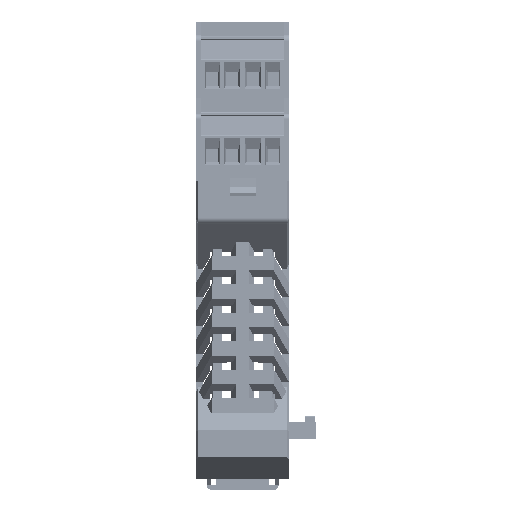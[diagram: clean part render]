
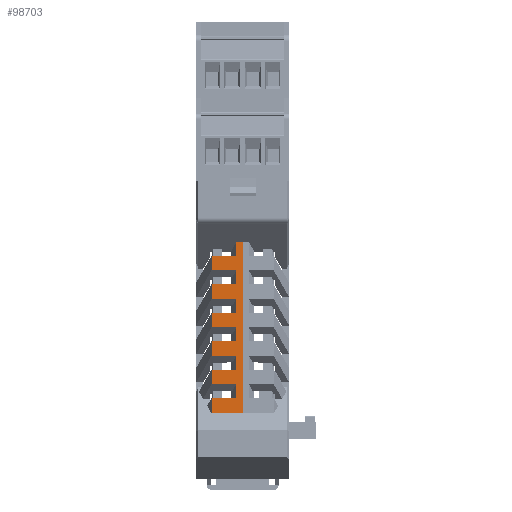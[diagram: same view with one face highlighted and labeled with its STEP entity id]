
A CAD part, front view. The second image highlights one B-rep face of the part: STEP entity #98703.
In plain terms, the highlighted planar face has unit normal (0, -1, 0) as drawn and (1, 0, 0) by its records, which use the part's own axes.
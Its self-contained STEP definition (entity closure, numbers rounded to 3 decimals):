
#98703=ADVANCED_FACE('',(#208674),#208676,.T.);
#208674=FACE_BOUND('',#208675,.T.);
#208675=EDGE_LOOP('',(#297137,#297138,#297139,#297140,#297141,#297142,#297143,#297144,
#297145,#297146,#297147,#297148,#297149,#297150,#297151,#297152,#297153,#297154,
#297155,#297156,#297157,#297158,#297159,#297160,#297161,#297162));
#208676=PLANE('',#208677);
#208677=AXIS2_PLACEMENT_3D('',#208678,#208679,#208680);
#208678=CARTESIAN_POINT('',(42.55,76.5,0.));
#208679=DIRECTION('',(1.,0.,0.));
#208680=DIRECTION('',(0.,0.,-1.));
#297137=ORIENTED_EDGE('',*,*,#349220,.F.);
#297138=ORIENTED_EDGE('',*,*,#349159,.F.);
#297139=ORIENTED_EDGE('',*,*,#349221,.F.);
#297140=ORIENTED_EDGE('',*,*,#349222,.T.);
#297141=ORIENTED_EDGE('',*,*,#348723,.T.);
#297142=ORIENTED_EDGE('',*,*,#349223,.F.);
#297143=ORIENTED_EDGE('',*,*,#349089,.F.);
#297144=ORIENTED_EDGE('',*,*,#349154,.F.);
#297145=ORIENTED_EDGE('',*,*,#348884,.F.);
#297146=ORIENTED_EDGE('',*,*,#349200,.T.);
#297147=ORIENTED_EDGE('',*,*,#349178,.F.);
#297148=ORIENTED_EDGE('',*,*,#349151,.F.);
#297149=ORIENTED_EDGE('',*,*,#349206,.F.);
#297150=ORIENTED_EDGE('',*,*,#349224,.T.);
#297151=ORIENTED_EDGE('',*,*,#349207,.T.);
#297152=ORIENTED_EDGE('',*,*,#349165,.F.);
#297153=ORIENTED_EDGE('',*,*,#349219,.T.);
#297154=ORIENTED_EDGE('',*,*,#349225,.T.);
#297155=ORIENTED_EDGE('',*,*,#349226,.T.);
#297156=ORIENTED_EDGE('',*,*,#349162,.F.);
#297157=ORIENTED_EDGE('',*,*,#349141,.T.);
#297158=ORIENTED_EDGE('',*,*,#349227,.F.);
#297159=ORIENTED_EDGE('',*,*,#349121,.T.);
#297160=ORIENTED_EDGE('',*,*,#349161,.F.);
#297161=ORIENTED_EDGE('',*,*,#349134,.T.);
#297162=ORIENTED_EDGE('',*,*,#349228,.T.);
#348723=EDGE_CURVE('',#410121,#410119,#410122,.T.);
#348884=EDGE_CURVE('',#410395,#410397,#410398,.T.);
#349089=EDGE_CURVE('',#410742,#410744,#410745,.T.);
#349121=EDGE_CURVE('',#410786,#410792,#410794,.T.);
#349134=EDGE_CURVE('',#410814,#410812,#410815,.T.);
#349141=EDGE_CURVE('',#410818,#410822,#410824,.T.);
#349151=EDGE_CURVE('',#410839,#410841,#410842,.T.);
#349154=EDGE_CURVE('',#410397,#410742,#410846,.T.);
#349159=EDGE_CURVE('',#410853,#410855,#410856,.T.);
#349161=EDGE_CURVE('',#410814,#410792,#410858,.T.);
#349162=EDGE_CURVE('',#410818,#410859,#410860,.T.);
#349165=EDGE_CURVE('',#410862,#410864,#410865,.T.);
#349178=EDGE_CURVE('',#410841,#410884,#410885,.T.);
#349200=EDGE_CURVE('',#410395,#410884,#410920,.T.);
#349206=EDGE_CURVE('',#410927,#410839,#410929,.T.);
#349207=EDGE_CURVE('',#410930,#410864,#410931,.T.);
#349219=EDGE_CURVE('',#410862,#410945,#410947,.T.);
#349220=EDGE_CURVE('',#410855,#410948,#410949,.T.);
#349221=EDGE_CURVE('',#410950,#410853,#410951,.T.);
#349222=EDGE_CURVE('',#410950,#410121,#410952,.T.);
#349223=EDGE_CURVE('',#410744,#410119,#410953,.T.);
#349224=EDGE_CURVE('',#410927,#410930,#410954,.T.);
#349225=EDGE_CURVE('',#410945,#410955,#410956,.T.);
#349226=EDGE_CURVE('',#410955,#410859,#410957,.T.);
#349227=EDGE_CURVE('',#410786,#410822,#410958,.T.);
#349228=EDGE_CURVE('',#410812,#410948,#410959,.T.);
#410119=VERTEX_POINT('',#551353);
#410121=VERTEX_POINT('',#551357);
#410122=LINE('',#551358,#551359);
#410395=VERTEX_POINT('',#551960);
#410397=VERTEX_POINT('',#551964);
#410398=LINE('',#551965,#551966);
#410742=VERTEX_POINT('',#552735);
#410744=VERTEX_POINT('',#552739);
#410745=LINE('',#552740,#552741);
#410786=VERTEX_POINT('',#552835);
#410792=VERTEX_POINT('',#552849);
#410794=LINE('',#552853,#552854);
#410812=VERTEX_POINT('',#552895);
#410814=VERTEX_POINT('',#552899);
#410815=LINE('',#552900,#552901);
#410818=VERTEX_POINT('',#552909);
#410822=VERTEX_POINT('',#552919);
#410824=LINE('',#552923,#552924);
#410839=VERTEX_POINT('',#552956);
#410841=VERTEX_POINT('',#552960);
#410842=LINE('',#552961,#552962);
#410846=LINE('',#552971,#552972);
#410853=VERTEX_POINT('',#552986);
#410855=VERTEX_POINT('',#552990);
#410856=LINE('',#552991,#552992);
#410858=LINE('',#552997,#552998);
#410859=VERTEX_POINT('',#553000);
#410860=LINE('',#553001,#553002);
#410862=VERTEX_POINT('',#553007);
#410864=VERTEX_POINT('',#553011);
#410865=LINE('',#553012,#553013);
#410884=VERTEX_POINT('',#553057);
#410885=LINE('',#553058,#553059);
#410920=LINE('',#553137,#553138);
#410927=VERTEX_POINT('',#553154);
#410929=LINE('',#553158,#553159);
#410930=VERTEX_POINT('',#553161);
#410931=LINE('',#553162,#553163);
#410945=VERTEX_POINT('',#553198);
#410947=LINE('',#553202,#553203);
#410948=VERTEX_POINT('',#553205);
#410949=LINE('',#553206,#553207);
#410950=VERTEX_POINT('',#553209);
#410951=LINE('',#553210,#553211);
#410952=LINE('',#553213,#553214);
#410953=LINE('',#553216,#553217);
#410954=LINE('',#553219,#553220);
#410955=VERTEX_POINT('',#553222);
#410956=LINE('',#553223,#553224);
#410957=LINE('',#553226,#553227);
#410958=LINE('',#553229,#553230);
#410959=LINE('',#553232,#553233);
#551353=CARTESIAN_POINT('',(42.55,20.,0.));
#551357=CARTESIAN_POINT('',(42.55,20.,7.547));
#551358=CARTESIAN_POINT('',(42.55,20.,7.547));
#551359=VECTOR('',#551360,1.);
#551360=DIRECTION('',(0.,0.,-1.));
#551960=CARTESIAN_POINT('',(42.55,58.2,7.547));
#551964=CARTESIAN_POINT('',(42.55,58.2,1.5));
#551965=CARTESIAN_POINT('',(42.55,58.2,7.547));
#551966=VECTOR('',#551967,1.);
#551967=DIRECTION('',(0.,0.,-1.));
#552735=CARTESIAN_POINT('',(42.55,61.6,1.5));
#552739=CARTESIAN_POINT('',(42.55,61.6,0.));
#552740=CARTESIAN_POINT('',(42.55,61.6,1.5));
#552741=VECTOR('',#552742,1.);
#552742=DIRECTION('',(0.,0.,-1.));
#552835=CARTESIAN_POINT('',(42.55,34.,7.547));
#552849=CARTESIAN_POINT('',(42.55,34.,1.5));
#552853=CARTESIAN_POINT('',(42.55,34.,7.547));
#552854=VECTOR('',#552855,1.);
#552855=DIRECTION('',(0.,0.,-1.));
#552895=CARTESIAN_POINT('',(42.55,30.6,7.547));
#552899=CARTESIAN_POINT('',(42.55,30.6,1.5));
#552900=CARTESIAN_POINT('',(42.55,30.6,1.5));
#552901=VECTOR('',#552902,1.);
#552902=DIRECTION('',(0.,0.,1.));
#552909=CARTESIAN_POINT('',(42.55,37.5,1.5));
#552919=CARTESIAN_POINT('',(42.55,37.5,7.547));
#552923=CARTESIAN_POINT('',(42.55,37.5,1.5));
#552924=VECTOR('',#552925,1.);
#552925=DIRECTION('',(0.,0.,1.));
#552956=CARTESIAN_POINT('',(42.55,51.3,1.5));
#552960=CARTESIAN_POINT('',(42.55,54.7,1.5));
#552961=CARTESIAN_POINT('',(42.55,51.3,1.5));
#552962=VECTOR('',#552963,1.);
#552963=DIRECTION('',(0.,1.,0.));
#552971=CARTESIAN_POINT('',(42.55,58.2,1.5));
#552972=VECTOR('',#552973,1.);
#552973=DIRECTION('',(0.,1.,0.));
#552986=CARTESIAN_POINT('',(42.55,23.7,1.5));
#552990=CARTESIAN_POINT('',(42.55,27.1,1.5));
#552991=CARTESIAN_POINT('',(42.55,23.7,1.5));
#552992=VECTOR('',#552993,1.);
#552993=DIRECTION('',(0.,1.,0.));
#552997=CARTESIAN_POINT('',(42.55,30.6,1.5));
#552998=VECTOR('',#552999,1.);
#552999=DIRECTION('',(0.,1.,0.));
#553000=CARTESIAN_POINT('',(42.55,40.9,1.5));
#553001=CARTESIAN_POINT('',(42.55,37.5,1.5));
#553002=VECTOR('',#553003,1.);
#553003=DIRECTION('',(0.,1.,0.));
#553007=CARTESIAN_POINT('',(42.55,44.4,1.5));
#553011=CARTESIAN_POINT('',(42.55,47.8,1.5));
#553012=CARTESIAN_POINT('',(42.55,44.4,1.5));
#553013=VECTOR('',#553014,1.);
#553014=DIRECTION('',(0.,1.,0.));
#553057=CARTESIAN_POINT('',(42.55,54.7,7.547));
#553058=CARTESIAN_POINT('',(42.55,54.7,1.5));
#553059=VECTOR('',#553060,1.);
#553060=DIRECTION('',(0.,0.,1.));
#553137=CARTESIAN_POINT('',(42.55,58.2,7.547));
#553138=VECTOR('',#553139,1.);
#553139=DIRECTION('',(0.,-1.,0.));
#553154=CARTESIAN_POINT('',(42.55,51.3,7.547));
#553158=CARTESIAN_POINT('',(42.55,51.3,7.547));
#553159=VECTOR('',#553160,1.);
#553160=DIRECTION('',(0.,0.,-1.));
#553161=CARTESIAN_POINT('',(42.55,47.8,7.547));
#553162=CARTESIAN_POINT('',(42.55,47.8,7.547));
#553163=VECTOR('',#553164,1.);
#553164=DIRECTION('',(0.,0.,-1.));
#553198=CARTESIAN_POINT('',(42.55,44.4,7.547));
#553202=CARTESIAN_POINT('',(42.55,44.4,1.5));
#553203=VECTOR('',#553204,1.);
#553204=DIRECTION('',(0.,0.,1.));
#553205=CARTESIAN_POINT('',(42.55,27.1,7.547));
#553206=CARTESIAN_POINT('',(42.55,27.1,1.5));
#553207=VECTOR('',#553208,1.);
#553208=DIRECTION('',(0.,0.,1.));
#553209=CARTESIAN_POINT('',(42.55,23.7,7.547));
#553210=CARTESIAN_POINT('',(42.55,23.7,7.547));
#553211=VECTOR('',#553212,1.);
#553212=DIRECTION('',(0.,0.,-1.));
#553213=CARTESIAN_POINT('',(42.55,23.7,7.547));
#553214=VECTOR('',#553215,1.);
#553215=DIRECTION('',(0.,-1.,0.));
#553216=CARTESIAN_POINT('',(42.55,61.6,0.));
#553217=VECTOR('',#553218,1.);
#553218=DIRECTION('',(0.,-1.,0.));
#553219=CARTESIAN_POINT('',(42.55,51.3,7.547));
#553220=VECTOR('',#553221,1.);
#553221=DIRECTION('',(0.,-1.,0.));
#553222=CARTESIAN_POINT('',(42.55,40.9,7.547));
#553223=CARTESIAN_POINT('',(42.55,44.4,7.547));
#553224=VECTOR('',#553225,1.);
#553225=DIRECTION('',(0.,-1.,0.));
#553226=CARTESIAN_POINT('',(42.55,40.9,7.547));
#553227=VECTOR('',#553228,1.);
#553228=DIRECTION('',(0.,0.,-1.));
#553229=CARTESIAN_POINT('',(42.55,34.,7.547));
#553230=VECTOR('',#553231,1.);
#553231=DIRECTION('',(0.,1.,0.));
#553232=CARTESIAN_POINT('',(42.55,30.6,7.547));
#553233=VECTOR('',#553234,1.);
#553234=DIRECTION('',(0.,-1.,0.));
